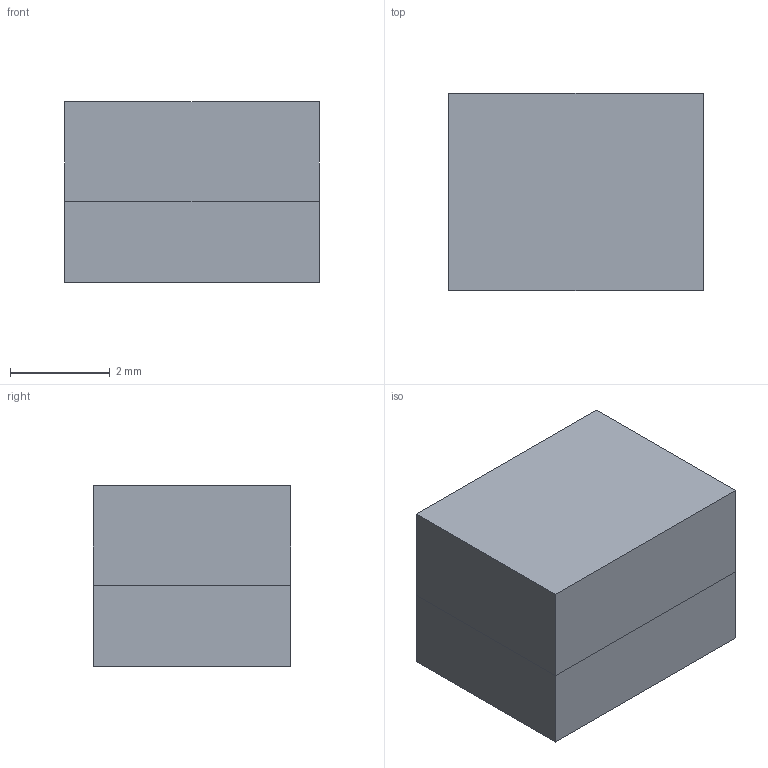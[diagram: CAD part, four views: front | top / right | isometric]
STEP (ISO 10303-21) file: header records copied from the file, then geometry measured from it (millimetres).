
FILE_DESCRIPTION(('Open CASCADE Model'),'2;1');
FILE_NAME('Broadcom_AEDR-8300-1K2_encoder','2026-09-04T00:01:43',( 'Author'),('Open CASCADE'),'Open CASCADE STEP processor 7.9', 'build123d','Unknown');
FILE_SCHEMA(('AUTOMOTIVE_DESIGN { 1 0 10303 214 1 1 1 1 }'));
Length unit declared in the file: millimetre
Products named in the file (4): Broadcom_AEDR-8300-1K2_encoder; package; terminals_6x; reflective_gap_2mm_typ
Assembly tree (3 placements, depth 2):
  Broadcom_AEDR-8300-1K2_encoder
    package
    terminals_6x
    reflective_gap_2mm_typ
Bounding box: 5.12 x 3.96 x 3.63 mm (x, y, z)
Volume: 73.6 mm3; surface area: 158.3 mm2
Topology: 8 solids, 8 shells, 78 faces, 168 edges, 112 vertices
Faces by surface type: plane 78
Entity records: 2122 total; most frequent: CARTESIAN_POINT 362, ORIENTED_EDGE 336, DIRECTION 332, EDGE_CURVE 168, LINE 168, VECTOR 168, VERTEX_POINT 112, FACE_BOUND 84
